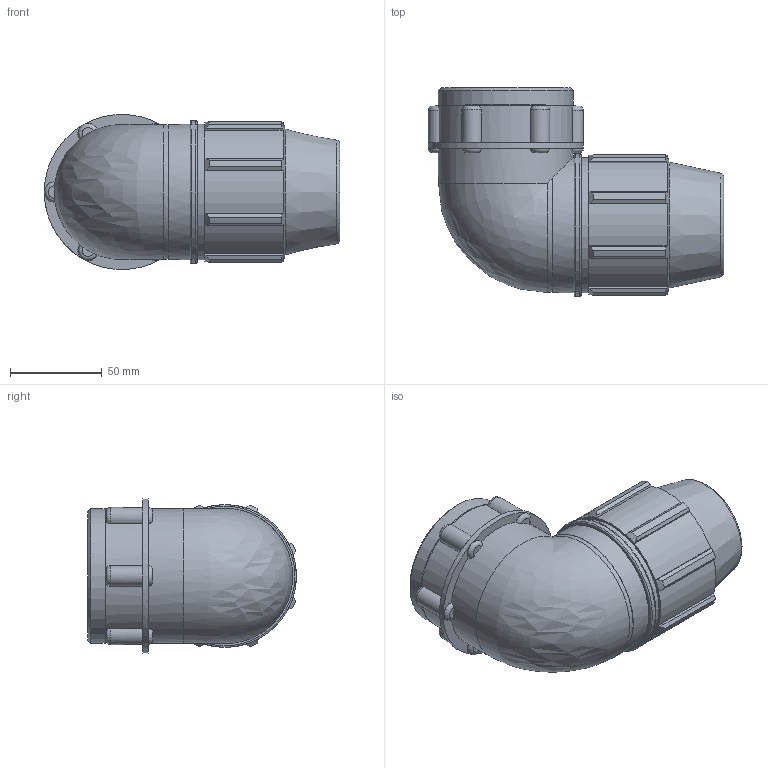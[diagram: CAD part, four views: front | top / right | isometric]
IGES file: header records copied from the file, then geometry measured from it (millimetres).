
Global section: file name: 071500040020_181500040020_0715060400200A.ipt; native system: Autodesk Inventor 2015; preprocessor: unknown; author: KIM; date: 20170606.172215; units: millimetre
Bounding box: 161.35 x 113.95 x 84.46 mm (x, y, z)
Volume: 468964.7 mm3; surface area: 79963.4 mm2
Topology: 1 solids, 1 shells, 139 faces, 383 edges, 252 vertices
Faces by surface type: plane 60, cylinder 42, revolution 22, cone 14, bspline 1
Full cylindrical faces by diameter (mm): 73.653 x2, 73.8 x2, 77.9 x1, 84.701 x1
